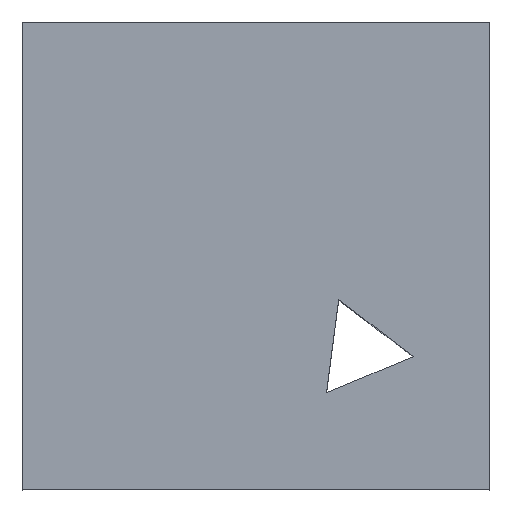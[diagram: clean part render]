
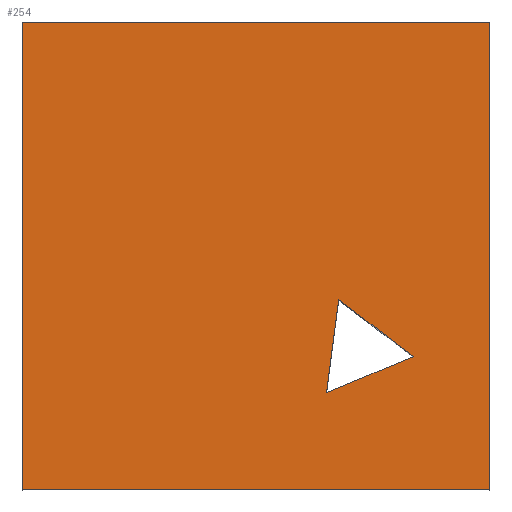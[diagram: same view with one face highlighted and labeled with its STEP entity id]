
A CAD part, top view. The second image highlights one B-rep face of the part: STEP entity #254.
In plain terms, the highlighted planar face has unit normal (0, 0, 1).
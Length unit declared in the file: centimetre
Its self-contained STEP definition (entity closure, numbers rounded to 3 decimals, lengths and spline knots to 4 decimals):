
#1 = EDGE_CURVE ( 'NONE', #89, #27, #358, .T. ) ;
#10 = VECTOR ( 'NONE', #165, 100. ) ;
#12 = CARTESIAN_POINT ( 'NONE',  ( 0., 0., 1000. ) ) ;
#25 = EDGE_CURVE ( 'NONE', #168, #139, #489, .T. ) ;
#27 = VERTEX_POINT ( 'NONE', #216 ) ;
#55 = CARTESIAN_POINT ( 'NONE',  ( 1000., 1000., 1000. ) ) ;
#60 = VECTOR ( 'NONE', #71, 100. ) ;
#62 = DIRECTION ( 'NONE',  ( 0., 0., 1. ) ) ;
#70 = VERTEX_POINT ( 'NONE', #256 ) ;
#71 = DIRECTION ( 'NONE',  ( 0.794, -0.608, 0. ) ) ;
#82 = DIRECTION ( 'NONE',  ( 0.129, 0.992, 0. ) ) ;
#89 = VERTEX_POINT ( 'NONE', #291 ) ;
#95 = FACE_BOUND ( 'NONE', #155, .T. ) ;
#110 = ORIENTED_EDGE ( 'NONE', *, *, #334, .T. ) ;
#122 = LINE ( 'NONE', #373, #314 ) ;
#123 = CARTESIAN_POINT ( 'NONE',  ( 650.8628, 206.611, 1000. ) ) ;
#133 = ORIENTED_EDGE ( 'NONE', *, *, #159, .T. ) ;
#139 = VERTEX_POINT ( 'NONE', #328 ) ;
#145 = ORIENTED_EDGE ( 'NONE', *, *, #269, .T. ) ;
#151 = LINE ( 'NONE', #299, #167 ) ;
#155 = EDGE_LOOP ( 'NONE', ( #242, #110, #309 ) ) ;
#159 = EDGE_CURVE ( 'NONE', #357, #485, #176, .T. ) ;
#160 = EDGE_LOOP ( 'NONE', ( #277, #145, #133, #427 ) ) ;
#165 = DIRECTION ( 'NONE',  ( 0., -1., 0. ) ) ;
#166 = DIRECTION ( 'NONE',  ( 1., 0., 0. ) ) ;
#167 = VECTOR ( 'NONE', #82, 100. ) ;
#168 = VERTEX_POINT ( 'NONE', #410 ) ;
#176 = LINE ( 'NONE', #367, #377 ) ;
#183 = DIRECTION ( 'NONE',  ( -1., 0., 0. ) ) ;
#208 = EDGE_CURVE ( 'NONE', #485, #89, #122, .T. ) ;
#212 = AXIS2_PLACEMENT_3D ( 'NONE', #12, #62, #166 ) ;
#216 = CARTESIAN_POINT ( 'NONE',  ( 0., 0., 1000. ) ) ;
#219 = EDGE_CURVE ( 'NONE', #70, #168, #151, .T. ) ;
#232 = FACE_OUTER_BOUND ( 'NONE', #160, .T. ) ;
#242 = ORIENTED_EDGE ( 'NONE', *, *, #25, .T. ) ;
#245 = CARTESIAN_POINT ( 'NONE',  ( 836.9128, 283.9277, 1000. ) ) ;
#254 = ADVANCED_FACE ( 'NONE', ( #95, #232 ), #391, .T. ) ;
#256 = CARTESIAN_POINT ( 'NONE',  ( 650.8628, 206.611, 1000. ) ) ;
#264 = VECTOR ( 'NONE', #473, 100. ) ;
#269 = EDGE_CURVE ( 'NONE', #27, #357, #382, .T. ) ;
#277 = ORIENTED_EDGE ( 'NONE', *, *, #1, .T. ) ;
#291 = CARTESIAN_POINT ( 'NONE',  ( 0., 1000., 1000. ) ) ;
#299 = CARTESIAN_POINT ( 'NONE',  ( 676.9295, 406.3933, 1000. ) ) ;
#308 = DIRECTION ( 'NONE',  ( -0.923, -0.384, 0. ) ) ;
#309 = ORIENTED_EDGE ( 'NONE', *, *, #219, .T. ) ;
#314 = VECTOR ( 'NONE', #183, 100. ) ;
#328 = CARTESIAN_POINT ( 'NONE',  ( 836.9128, 283.9277, 1000. ) ) ;
#334 = EDGE_CURVE ( 'NONE', #139, #70, #463, .T. ) ;
#346 = CARTESIAN_POINT ( 'NONE',  ( 0., 0., 1000. ) ) ;
#357 = VERTEX_POINT ( 'NONE', #468 ) ;
#358 = LINE ( 'NONE', #390, #10 ) ;
#367 = CARTESIAN_POINT ( 'NONE',  ( 1000., 1000., 1000. ) ) ;
#373 = CARTESIAN_POINT ( 'NONE',  ( 0., 1000., 1000. ) ) ;
#377 = VECTOR ( 'NONE', #407, 100. ) ;
#382 = LINE ( 'NONE', #346, #264 ) ;
#390 = CARTESIAN_POINT ( 'NONE',  ( 0., 1000., 1000. ) ) ;
#391 = PLANE ( 'NONE',  #212 ) ;
#407 = DIRECTION ( 'NONE',  ( 0., 1., 0. ) ) ;
#410 = CARTESIAN_POINT ( 'NONE',  ( 676.9295, 406.3933, 1000. ) ) ;
#427 = ORIENTED_EDGE ( 'NONE', *, *, #208, .T. ) ;
#438 = VECTOR ( 'NONE', #308, 100. ) ;
#463 = LINE ( 'NONE', #123, #438 ) ;
#468 = CARTESIAN_POINT ( 'NONE',  ( 1000., 0., 1000. ) ) ;
#473 = DIRECTION ( 'NONE',  ( 1., 0., 0. ) ) ;
#485 = VERTEX_POINT ( 'NONE', #55 ) ;
#489 = LINE ( 'NONE', #245, #60 ) ;
